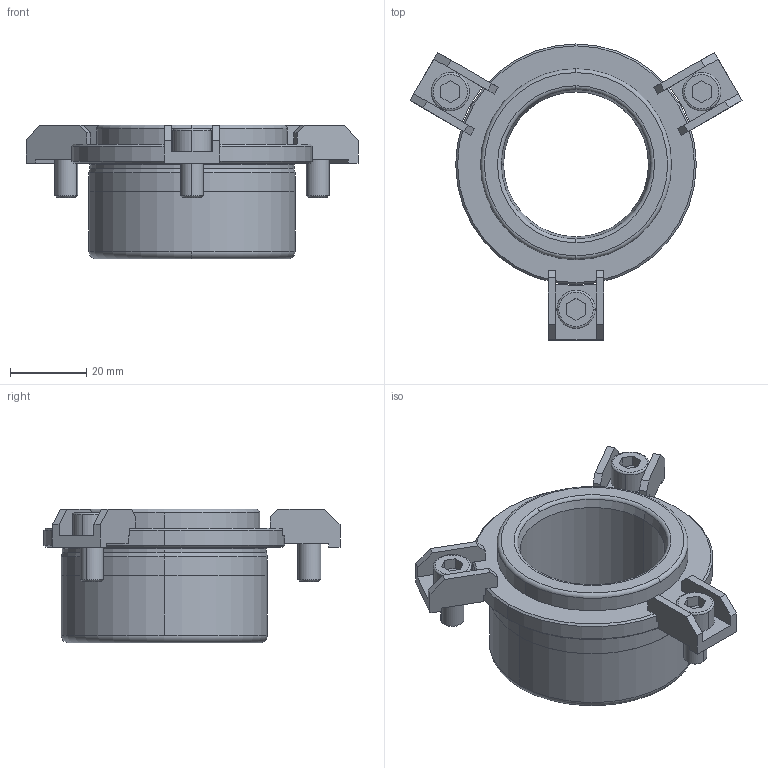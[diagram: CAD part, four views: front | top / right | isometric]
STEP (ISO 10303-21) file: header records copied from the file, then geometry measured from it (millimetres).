
FILE_DESCRIPTION((''),'2;1');
FILE_NAME('B42_030_025.stp','2008-11-04T14:28:47',(''),(''),'Mechanical Desktop 2009','Mechanical Desktop 2009',', , ');
FILE_SCHEMA(('CONFIG_CONTROL_DESIGN'));
Length unit declared in the file: millimetre
Products named in the file (2): Product; blmdl1
Assembly tree (1 placements, depth 2):
  Product
    blmdl1
Bounding box: 86.92 x 77.5 x 35 mm (x, y, z)
Volume: 47098.8 mm3; surface area: 18680.6 mm2
Topology: 7 solids, 7 shells, 185 faces, 474 edges, 312 vertices
Faces by surface type: plane 104, cylinder 39, cone 18, torus 14, bspline 10
Entity records: 6165 total; most frequent: CARTESIAN_POINT 1413, DIRECTION 1008, ORIENTED_EDGE 948, EDGE_CURVE 474, AXIS2_PLACEMENT_3D 357, VERTEX_POINT 312, VECTOR 294, LINE 294
